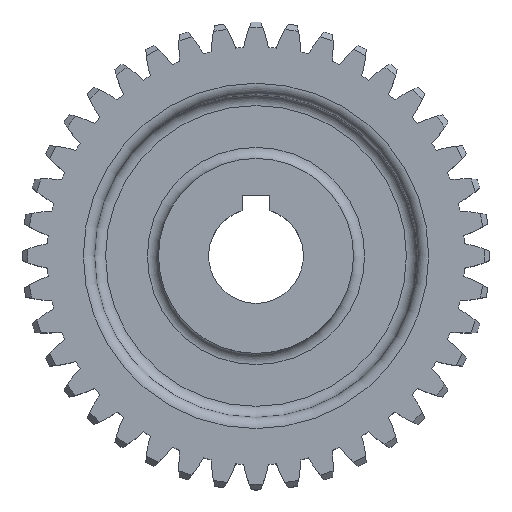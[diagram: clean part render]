
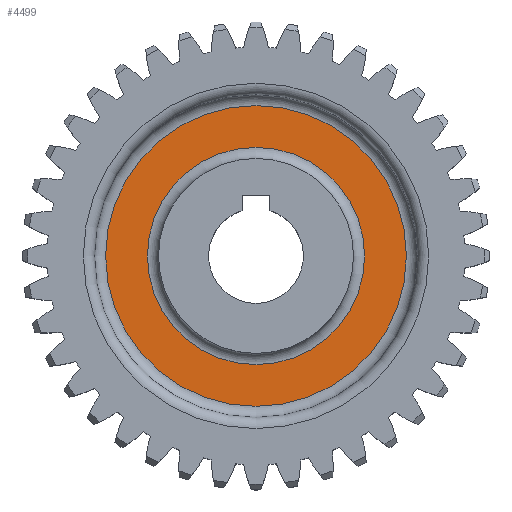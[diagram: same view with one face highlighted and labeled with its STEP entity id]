
A CAD part, top view. The second image highlights one B-rep face of the part: STEP entity #4499.
In plain terms, the highlighted planar face has unit normal (0, 0, 1).
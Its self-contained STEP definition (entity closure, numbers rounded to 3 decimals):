
#605=PLANE('',#4930);
#785=FACE_BOUND('',#1070,.T.);
#801=FACE_OUTER_BOUND('',#1069,.T.);
#1069=EDGE_LOOP('',(#3168));
#1070=EDGE_LOOP('',(#3169));
#1496=CIRCLE('',#4928,19.5);
#1498=CIRCLE('',#4931,27.);
#1912=VERTEX_POINT('',#7308);
#1914=VERTEX_POINT('',#7313);
#2414=EDGE_CURVE('',#1912,#1912,#1496,.T.);
#2416=EDGE_CURVE('',#1914,#1914,#1498,.T.);
#3168=ORIENTED_EDGE('',*,*,#2416,.F.);
#3169=ORIENTED_EDGE('',*,*,#2414,.F.);
#4499=ADVANCED_FACE('',(#801,#785),#605,.T.);
#4928=AXIS2_PLACEMENT_3D('',#7309,#5785,#5786);
#4930=AXIS2_PLACEMENT_3D('',#7312,#5789,#5790);
#4931=AXIS2_PLACEMENT_3D('',#7314,#5791,#5792);
#5785=DIRECTION('center_axis',(0.,0.,1.));
#5786=DIRECTION('ref_axis',(-1.,0.,0.));
#5789=DIRECTION('center_axis',(0.,0.,1.));
#5790=DIRECTION('ref_axis',(1.,0.,0.));
#5791=DIRECTION('center_axis',(0.,0.,-1.));
#5792=DIRECTION('ref_axis',(-1.,0.,0.));
#7308=CARTESIAN_POINT('',(19.5,0.,13.));
#7309=CARTESIAN_POINT('Origin',(0.,0.,13.));
#7312=CARTESIAN_POINT('Origin',(0.,0.,13.));
#7313=CARTESIAN_POINT('',(27.,0.,13.));
#7314=CARTESIAN_POINT('Origin',(0.,0.,13.));
